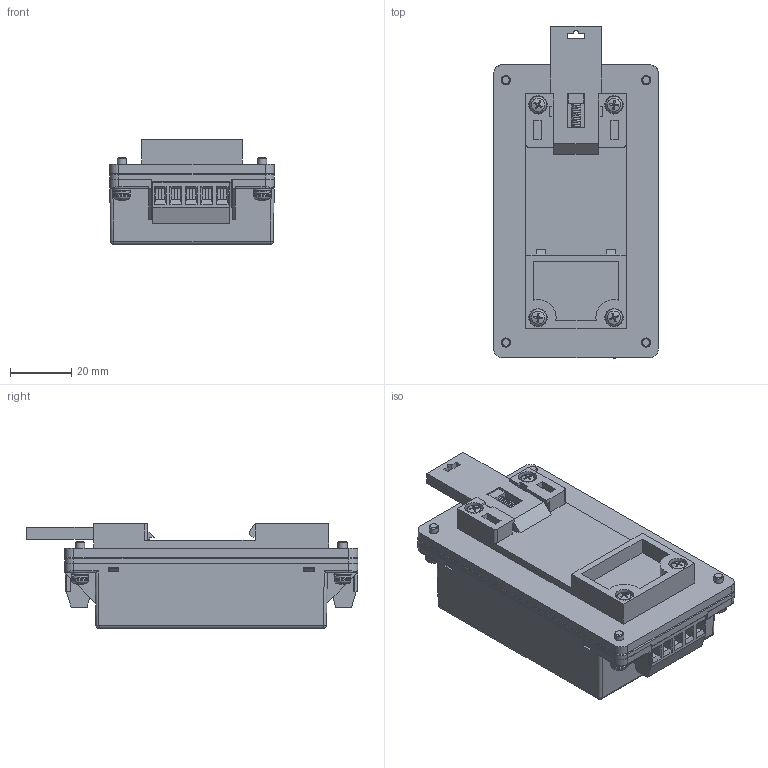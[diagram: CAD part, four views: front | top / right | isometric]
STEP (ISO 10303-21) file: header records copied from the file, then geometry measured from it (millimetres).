
FILE_DESCRIPTION(/* description */ (''),/* implementation_level */ '2;1');
FILE_NAME(/* name */ 'C:\Users\Calliope\Desktop\MOWI20.stp',/* time_stamp */ '2015-07-10T16:06:30+08:00',/* author */ ('Calliope'),/* organization */ (''),/* preprocessor_version */ 'ST-DEVELOPER v15.6',/* originating_system */ 'Autodesk Inventor 2015',/* authorisation */ '');
FILE_SCHEMA (('AUTOMOTIVE_DESIGN { 1 0 10303 214 3 1 1 }'));
Length unit declared in the file: millimetre
Products named in the file (17): Connect(3PIN); Connect(5PIN); MOWI20 BASE; MOWI20 CASE; DIN_1; DIN_2; DIN_3; DIN rail; 15W-HS ; FLAT WASHER; SPRING WASHER; M3-8mm; DIN rail_HS; M3-12mm; MOWI20_DIN rail
Bounding box: 54 x 108.76 x 34.3 mm (x, y, z)
Volume: 105109 mm3; surface area: 57385.3 mm2
Topology: 33 solids, 33 shells, 1096 faces, 2766 edges, 1810 vertices
Faces by surface type: plane 670, cylinder 214, cone 101, torus 52, bspline 45, sphere 14
Full cylindrical faces by diameter (mm): 1.3 x4, 1.5 x2, 1.8 x1, 2.459 x1, 2.729 x8, 2.8 x8, 3 x16, 3.4 x6, 3.5 x16, 4 x9, 5 x1, 5.5 x8, 5.8 x8, 6 x4, 6.5 x1, 8 x1
Entity records: 27539 total; most frequent: CARTESIAN_POINT 6698, ORIENTED_EDGE 4178, DIRECTION 4098, EDGE_CURVE 2089, LINE 1570, VECTOR 1570, VERTEX_POINT 1416, AXIS2_PLACEMENT_3D 1264
